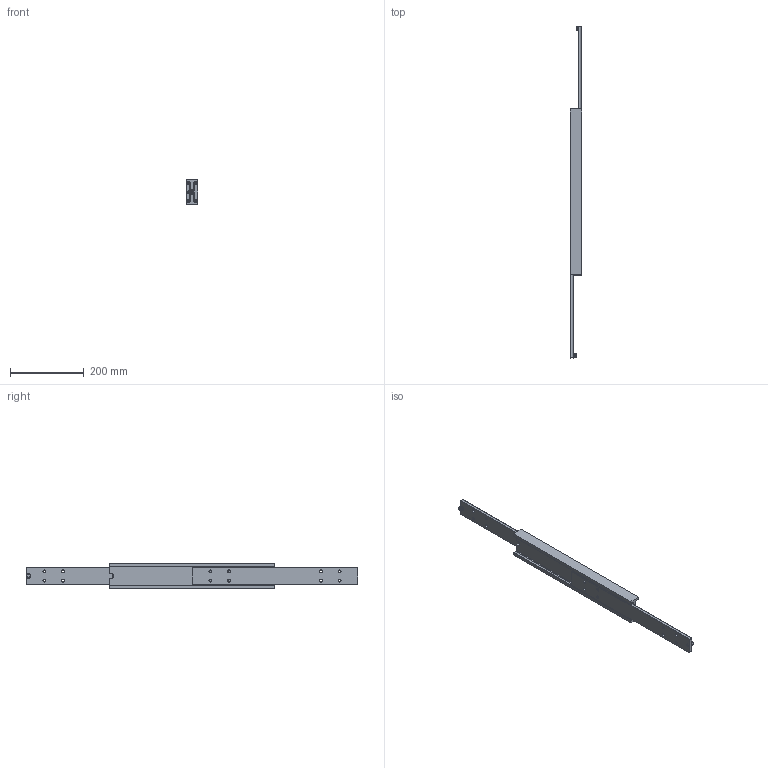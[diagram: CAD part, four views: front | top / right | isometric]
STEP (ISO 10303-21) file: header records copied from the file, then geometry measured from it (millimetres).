
FILE_DESCRIPTION(/* description */ (''),/* implementation_level */ '2;1');
FILE_NAME(/* name */ 'F:\MX-DTP70.045_ausgefahren.stp',/* time_stamp */ '2021-01-25T09:02:16+01:00',/* author */ ('Miluxor'),/* organization */ (''),/* preprocessor_version */ 'ST-DEVELOPER v16.13',/* originating_system */ 'AutoCAD Mechanical',/* authorisation */ '');
FILE_SCHEMA (('AUTOMOTIVE_DESIGN { 1 0 10303 214 3 1 1 }'));
Length unit declared in the file: millimetre
Products named in the file (1): Product
Bounding box: 32 x 900 x 70 mm (x, y, z)
Volume: 793329.4 mm3; surface area: 287380.1 mm2
Topology: 47 solids, 47 shells, 306 faces, 784 edges, 520 vertices
Faces by surface type: plane 206, cylinder 58, sphere 28, bspline 8, torus 6
Full cylindrical faces by diameter (mm): 8 x16, 9 x28, 13 x2
Entity records: 15945 total; most frequent: CARTESIAN_POINT 8653, DIRECTION 1410, ORIENTED_EDGE 1348, EDGE_CURVE 674, VERTEX_POINT 518, LINE 500, VECTOR 500, AXIS2_PLACEMENT_3D 455
